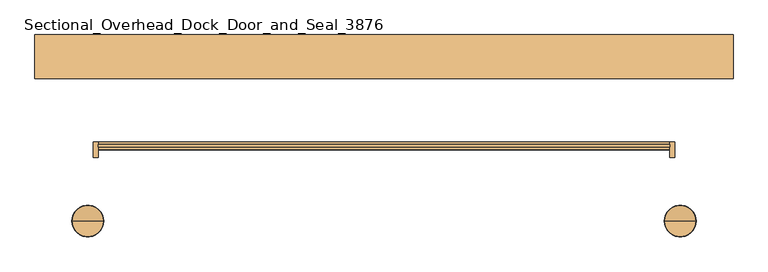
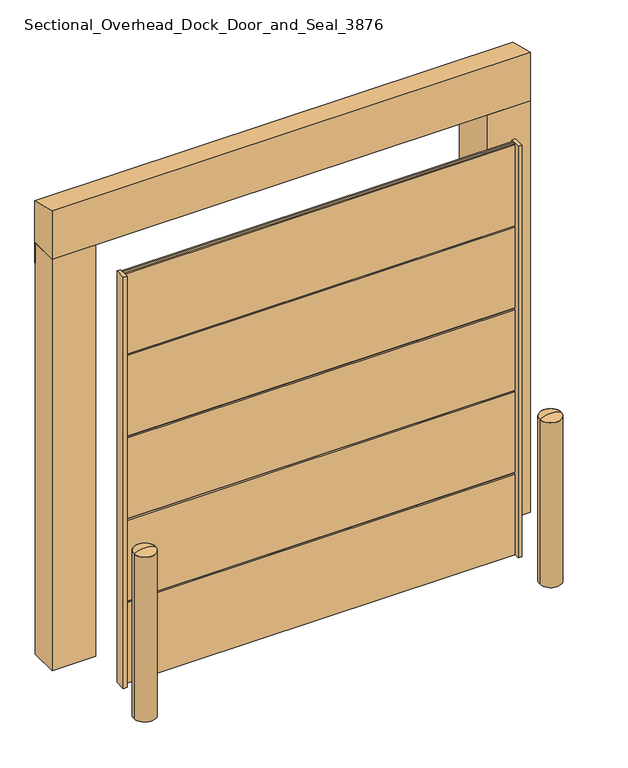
"""IFC4 building model written with IfcOpenShell, lengths in millimetres: door geometry."""

from ifc_helpers import new_model, si_unit, point, frame, frame_2d, origin, origin_with_axes, place, context, project, spatial, polyline, circle_curve, ellipse_curve, trimmed, segment, composite_curve, outline, extrude, source, transform, mapped, element, save
from ifc_brep_helpers import plane_surface, revolved_surface, advanced_brep


def sectional_overhead_dock_door_and_seal_3876_cbcbc84f(model_context):
    return source(origin(), model_context, "Body", "SolidModel", [
        extrude(outline(composite_curve([segment(trimmed(circle_curve(frame_2d((1422.4, -533.4)), 76.2), [point((1346.2, -533.4))], [point((1498.6, -533.4))], False, "CARTESIAN"), True, "CONTINUOUS"), segment(trimmed(circle_curve(frame_2d((1422.4, -533.4)), 76.2), [point((1498.6, -533.4))], [point((1346.2, -533.4))], False, "CARTESIAN"), True, "CONTINUOUS")], self_intersect=False)), origin_with_axes(), (0.0, 0.0, 1.0), 1219.2),
        advanced_brep(
        [(1498.6, -533.4, 1219.2), (1346.2, -533.4, 1219.2), (1422.4, -533.4, 1239.6177285), (1422.4, -533.4, 1219.2)],
        [
            (0, 1, circle_curve(frame((1422.4, -533.4, 1219.2), z_axis=(0.0, 0.0, 1.0), x_axis=(-1.0, 0.0, 0.0)), 76.2)),
            (1, 2, circle_curve(frame((1422.4, -533.4, 1087.2177285), z_axis=(0.0, 1.0, 0.0), x_axis=(1.0, 0.0, 0.0)), 152.4)),
            (2, 0, circle_curve(frame((1422.4, -533.4, 1087.2177285), z_axis=(0.0, 1.0, 0.0), x_axis=(-1.0, 0.0, 0.0)), 152.4)),
            (1, 0, circle_curve(frame((1422.4, -533.4, 1219.2), z_axis=(0.0, 0.0, 1.0), x_axis=(-1.0, 0.0, 0.0)), 76.2)),
            (3, 1),
            (0, 3),
        ],
        [
            revolved_surface(trimmed(ellipse_curve(frame((1422.4, -533.4, 1087.2177285), z_axis=(0.0, -1.0, 0.0), x_axis=(1.0, 0.0, 0.0)), 152.4, 152.4), [point((1422.4, -533.4, 1239.6177285))], [point((1346.2, -533.4, 1219.2))], True, "CARTESIAN"), (1422.4, -533.4, 1244.6), (0.0, 0.0, -1.0)),
            plane_surface(frame((1422.4, -533.4, 1219.2), z_axis=(0.0, 0.0, -1.0), x_axis=(-1.0, 0.0, 0.0))),
        ],
        [
            (0, [[1, 2, 3]]),
            (0, [[4, -3, -2]]),
            (1, [[5, -1, 6]]),
            (1, [[-6, -4, -5]]),
        ],
    ),
        extrude(outline(composite_curve([segment(trimmed(circle_curve(frame_2d((-1422.4, -533.4)), 76.2), [point((-1498.6, -533.4))], [point((-1346.2, -533.4))], False, "CARTESIAN"), True, "CONTINUOUS"), segment(trimmed(circle_curve(frame_2d((-1422.4, -533.4)), 76.2), [point((-1346.2, -533.4))], [point((-1498.6, -533.4))], False, "CARTESIAN"), True, "CONTINUOUS")], self_intersect=False)), origin_with_axes(), (0.0, 0.0, 1.0), 1219.2),
        advanced_brep(
        [(-1346.2, -533.4, 1219.2), (-1498.6, -533.4, 1219.2), (-1422.4, -533.4, 1239.6177285), (-1422.4, -533.4, 1219.2)],
        [
            (0, 1, circle_curve(frame((-1422.4, -533.4, 1219.2), z_axis=(0.0, 0.0, 1.0), x_axis=(-1.0, 0.0, 0.0)), 76.2)),
            (1, 2, circle_curve(frame((-1422.4, -533.4, 1087.2177285), z_axis=(0.0, 1.0, 0.0), x_axis=(1.0, 0.0, 0.0)), 152.4)),
            (2, 0, circle_curve(frame((-1422.4, -533.4, 1087.2177285), z_axis=(0.0, 1.0, 0.0), x_axis=(-1.0, 0.0, 0.0)), 152.4)),
            (1, 0, circle_curve(frame((-1422.4, -533.4, 1219.2), z_axis=(0.0, 0.0, 1.0), x_axis=(-1.0, 0.0, 0.0)), 76.2)),
            (3, 1),
            (0, 3),
        ],
        [
            revolved_surface(trimmed(ellipse_curve(frame((-1422.4, -533.4, 1087.2177285), z_axis=(0.0, -1.0, 0.0), x_axis=(1.0, 0.0, 0.0)), 152.4, 152.4), [point((-1422.4, -533.4, 1239.6177285))], [point((-1498.6, -533.4, 1219.2))], True, "CARTESIAN"), (-1422.4, -533.4, 1244.6), (0.0, 0.0, -1.0)),
            plane_surface(frame((-1422.4, -533.4, 1219.2), z_axis=(0.0, 0.0, -1.0), x_axis=(-1.0, 0.0, 0.0))),
        ],
        [
            (0, [[1, 2, 3]]),
            (0, [[4, -3, -2]]),
            (1, [[5, -1, 6]]),
            (1, [[-6, -4, -5]]),
        ],
    ),
        extrude(outline(polyline([(-152.4, 2425.7), (-152.4, 1828.8), (-190.5, 1828.8), (-190.5, 2425.7), (-177.8, 2425.7), (-177.8, 2438.4), (-165.1, 2438.4), (-165.1, 2425.7), (-152.4, 2425.7)])), frame((-1371.6, 0.0, 0.0), z_axis=(1.0, 0.0, 0.0), x_axis=(0.0, 1.0, 0.0)), (0.0, 0.0, 1.0), 2743.2),
        extrude(outline(polyline([(-152.4, 1816.1), (-152.4, 1219.2), (-190.5, 1219.2), (-190.5, 1816.1), (-177.8, 1816.1), (-177.8, 1828.8), (-165.1, 1828.8), (-165.1, 1816.1), (-152.4, 1816.1)])), frame((-1371.6, 0.0, 0.0), z_axis=(1.0, 0.0, 0.0), x_axis=(0.0, 1.0, 0.0)), (0.0, 0.0, 1.0), 2743.2),
        extrude(outline(polyline([(-152.4, 1206.5), (-152.4, 609.6), (-190.5, 609.6), (-190.5, 1206.5), (-177.8, 1206.5), (-177.8, 1219.2), (-165.1, 1219.2), (-165.1, 1206.5), (-152.4, 1206.5)])), frame((-1371.6, 0.0, 0.0), z_axis=(1.0, 0.0, 0.0), x_axis=(0.0, 1.0, 0.0)), (0.0, 0.0, 1.0), 2743.2),
        extrude(outline(polyline([(-152.4, 3035.3), (-152.4, 2438.4), (-190.5, 2438.4), (-190.5, 3035.3), (-177.8, 3035.3), (-177.8, 3048.0), (-165.1, 3048.0), (-165.1, 3035.3), (-152.4, 3035.3)])), frame((-1371.6, 0.0, 0.0), z_axis=(1.0, 0.0, 0.0), x_axis=(0.0, 1.0, 0.0)), (0.0, 0.0, 1.0), 2743.2),
        extrude(outline(polyline([(-152.4, 596.9), (-152.4, 0.0), (-190.5, 0.0), (-190.5, 596.9), (-177.8, 596.9), (-177.8, 609.6), (-165.1, 609.6), (-165.1, 596.9), (-152.4, 596.9)])), frame((-1371.6, 0.0, 0.0), z_axis=(1.0, 0.0, 0.0), x_axis=(0.0, 1.0, 0.0)), (0.0, 0.0, 1.0), 2743.2),
        extrude(outline(polyline([(-1371.6, -228.6), (-1397.0, -228.6), (-1397.0, -152.4), (-1371.6, -152.4), (-1371.6, -228.6)])), origin_with_axes(), (0.0, 0.0, 1.0), 3048.0),
        extrude(outline(polyline([(1371.6, -228.6), (1371.6, -152.4), (1397.0, -152.4), (1397.0, -228.6), (1371.6, -228.6)])), origin_with_axes(), (0.0, 0.0, 1.0), 3048.0),
        extrude(outline(polyline([(152.4, 3048.0), (152.4, 3408.9487533), (361.95, 3352.8), (361.95, 2895.6), (355.6, 2895.6), (355.6, 3048.0), (152.4, 3048.0)])), frame((-1676.4, 0.0, 0.0), z_axis=(1.0, 0.0, 0.0), x_axis=(0.0, 1.0, 0.0)), (0.0, 0.0, 1.0), 3352.8),
        extrude(outline(polyline([(1676.4, 355.6), (1676.4, 152.4), (1371.6, 152.4), (1295.4, 355.6), (1676.4, 355.6)])), origin_with_axes(), (0.0, 0.0, 1.0), 3048.0),
        extrude(outline(polyline([(-1676.4, 355.6), (-1295.4, 355.6), (-1371.6, 152.4), (-1676.4, 152.4), (-1676.4, 355.6)])), origin_with_axes(), (0.0, 0.0, 1.0), 3048.0),
    ])


if __name__ == "__main__":
    model = new_model("IFC4")
    model_context = context("Model", 3, world=origin())
    ifc_project = project(units=[si_unit("LENGTHUNIT", "METRE", prefix="MILLI")], contexts=[model_context])
    site = spatial("IfcSite", under=ifc_project)
    building = spatial("IfcBuilding", under=site)
    placement = place(None, origin())
    sectional_overhead_dock_door_and_seal_3876_shape = sectional_overhead_dock_door_and_seal_3876_cbcbc84f(model_context)
    element("IfcDoor", 1, ObjectType="Sectional_Overhead_Dock_Door_and_Seal_3876 : 9'-0\"W x 10'-0\"H", at=placement, inside=building, context=model_context, shape_type="MappedRepresentation", body=[
        mapped(sectional_overhead_dock_door_and_seal_3876_shape, transform((0.0, 0.0, 0.0), x_axis=(1.0, 0.0, 0.0), y_axis=(0.0, 1.0, 0.0), z_axis=(0.0, 0.0, 1.0))),
    ])
    save(model, "model.ifc")
